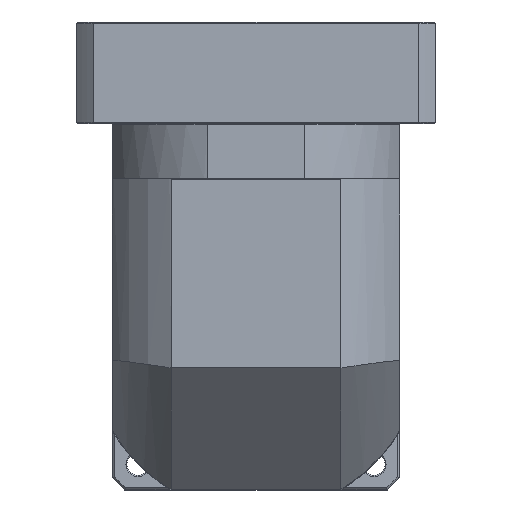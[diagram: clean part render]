
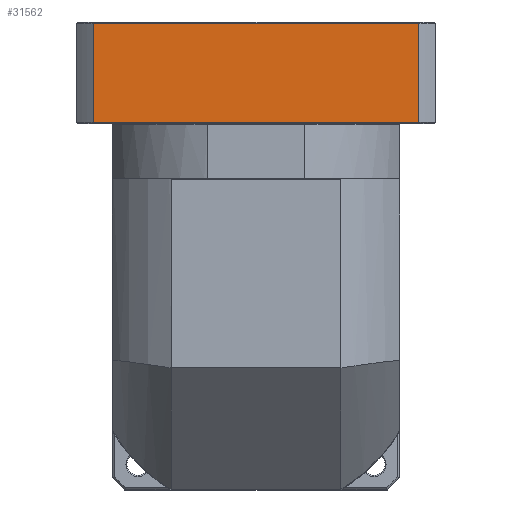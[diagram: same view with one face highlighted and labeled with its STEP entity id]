
A CAD part, top view. The second image highlights one B-rep face of the part: STEP entity #31562.
In plain terms, the highlighted planar face has unit normal (0, 0, 1).
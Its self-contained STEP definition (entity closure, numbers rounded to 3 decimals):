
#4327 = VECTOR ( 'NONE', #13163, 1000. ) ;
#6588 = EDGE_CURVE ( 'NONE', #77687, #32524, #9269, .T. ) ;
#9220 = ORIENTED_EDGE ( 'NONE', *, *, #97556, .T. ) ;
#9269 = LINE ( 'NONE', #108676, #4327 ) ;
#13163 = DIRECTION ( 'NONE',  ( 1., 0., 0. ) ) ;
#16453 = FACE_OUTER_BOUND ( 'NONE', #62069, .T. ) ;
#16470 = LINE ( 'NONE', #20098, #104801 ) ;
#16708 = DIRECTION ( 'NONE',  ( 1., 0., 0. ) ) ;
#20098 = CARTESIAN_POINT ( 'NONE',  ( -197.329, 214.024, 111.614 ) ) ;
#23306 = ORIENTED_EDGE ( 'NONE', *, *, #130346, .F. ) ;
#31562 = ADVANCED_FACE ( 'NONE', ( #16453 ), #63200, .F. ) ;
#32524 = VERTEX_POINT ( 'NONE', #90899 ) ;
#34774 = VERTEX_POINT ( 'NONE', #59136 ) ;
#51116 = VECTOR ( 'NONE', #86000, 1000. ) ;
#59136 = CARTESIAN_POINT ( 'NONE',  ( -197.329, 164.524, 111.614 ) ) ;
#62069 = EDGE_LOOP ( 'NONE', ( #23306, #9220, #108560, #106475 ) ) ;
#63200 = PLANE ( 'NONE',  #91184 ) ;
#64064 = LINE ( 'NONE', #68793, #112138 ) ;
#64119 = CARTESIAN_POINT ( 'NONE',  ( -27.837, 214.024, 111.614 ) ) ;
#68793 = CARTESIAN_POINT ( 'NONE',  ( -27.837, 164.524, 111.614 ) ) ;
#73319 = CARTESIAN_POINT ( 'NONE',  ( -197.329, 213.524, 111.614 ) ) ;
#74982 = DIRECTION ( 'NONE',  ( 0., 1., 0. ) ) ;
#77687 = VERTEX_POINT ( 'NONE', #73319 ) ;
#81652 = DIRECTION ( 'NONE',  ( 0., -1., 0. ) ) ;
#86000 = DIRECTION ( 'NONE',  ( 0., -1., 0. ) ) ;
#87604 = VERTEX_POINT ( 'NONE', #119310 ) ;
#90899 = CARTESIAN_POINT ( 'NONE',  ( -36.345, 213.524, 111.614 ) ) ;
#91184 = AXIS2_PLACEMENT_3D ( 'NONE', #64119, #118071, #81652 ) ;
#93203 = EDGE_CURVE ( 'NONE', #32524, #87604, #111038, .T. ) ;
#97556 = EDGE_CURVE ( 'NONE', #34774, #87604, #64064, .T. ) ;
#104801 = VECTOR ( 'NONE', #74982, 1000. ) ;
#106475 = ORIENTED_EDGE ( 'NONE', *, *, #6588, .F. ) ;
#108560 = ORIENTED_EDGE ( 'NONE', *, *, #93203, .F. ) ;
#108676 = CARTESIAN_POINT ( 'NONE',  ( -27.837, 213.524, 111.614 ) ) ;
#111038 = LINE ( 'NONE', #128169, #51116 ) ;
#112138 = VECTOR ( 'NONE', #16708, 1000. ) ;
#118071 = DIRECTION ( 'NONE',  ( 0., 0., -1. ) ) ;
#119310 = CARTESIAN_POINT ( 'NONE',  ( -36.345, 164.524, 111.614 ) ) ;
#128169 = CARTESIAN_POINT ( 'NONE',  ( -36.345, -178.782, 111.614 ) ) ;
#130346 = EDGE_CURVE ( 'NONE', #34774, #77687, #16470, .T. ) ;
